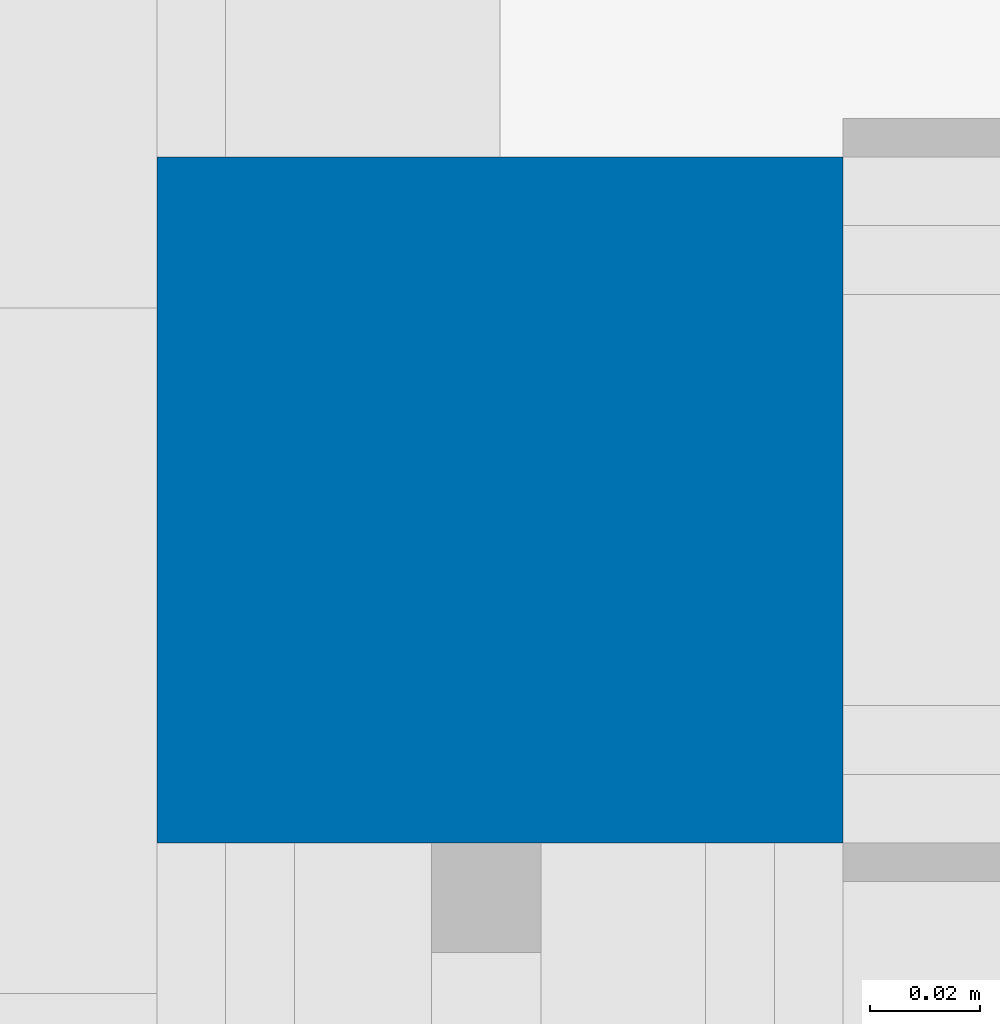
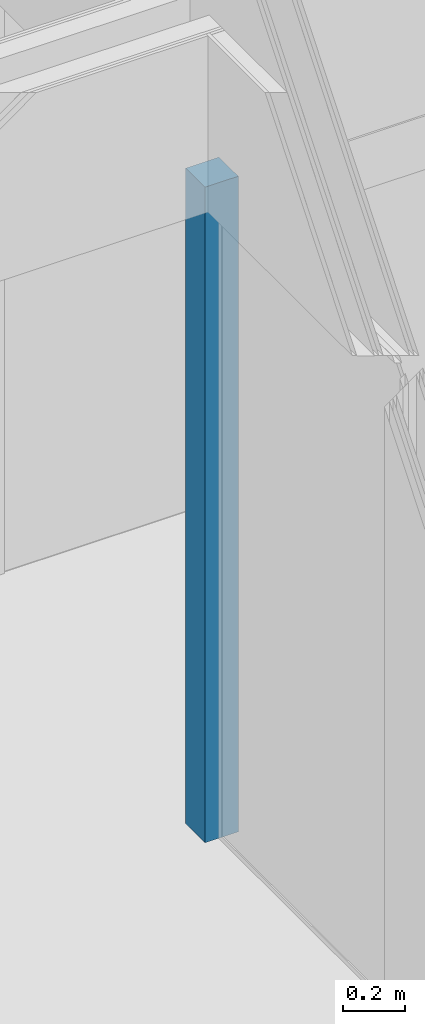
# One storey, part 3 of 165: 1 column.
"""IFC2X3 building model written with IfcOpenShell, lengths in millimetres."""

from ifc_helpers import new_model, entity, si_unit, converted_unit, derived_unit, money_unit, direction, frame, origin_with_axes, place, context, subcontext, project, spatial, faceted_brep, material, type_object, element, save


model = new_model("IFC2X3")

# Units and contexts
model_context = context("Model", 3, precision=0.01, world=origin_with_axes(), true_north=direction((0.0, 1.0)))
body_context = subcontext(model_context, "Body", "Model", "MODEL_VIEW")
ifc_project = project(units=[si_unit("LENGTHUNIT", "METRE", prefix="MILLI"), si_unit("AREAUNIT", "SQUARE_METRE"), si_unit("VOLUMEUNIT", "CUBIC_METRE"), converted_unit("PLANEANGLEUNIT", "DEGREE", entity("IfcPlaneAngleMeasure", 0.0174532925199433), si_unit("PLANEANGLEUNIT", "RADIAN"), dimensions=[0, 0, 0, 0, 0, 0, 0]), money_unit("EUR"), converted_unit("TIMEUNIT", "Year", entity("IfcTimeMeasure", 31556926.0), si_unit("TIMEUNIT", "SECOND"), dimensions=[0, 0, 1, 0, 0, 0, 0]), si_unit("MASSUNIT", "GRAM", prefix="KILO"), si_unit("THERMODYNAMICTEMPERATUREUNIT", "DEGREE_CELSIUS"), si_unit("LUMINOUSINTENSITYUNIT", "LUMEN"), si_unit("ENERGYUNIT", "JOULE", prefix="MEGA"), derived_unit("THERMALCONDUCTANCEUNIT", [(si_unit("POWERUNIT", "WATT"), 1), (si_unit("LENGTHUNIT", "METRE"), -1), (si_unit("THERMODYNAMICTEMPERATUREUNIT", "KELVIN"), -1)]), derived_unit("SPECIFICHEATCAPACITYUNIT", [(si_unit("ENERGYUNIT", "JOULE"), 1), (si_unit("MASSUNIT", "GRAM", prefix="KILO"), -1), (si_unit("THERMODYNAMICTEMPERATUREUNIT", "KELVIN"), -1)]), derived_unit("MASSDENSITYUNIT", [(si_unit("MASSUNIT", "GRAM", prefix="KILO"), 1), (si_unit("VOLUMEUNIT", "CUBIC_METRE"), -1)])], contexts=[model_context])

# Site, building, storey
site_placement = place(None, origin_with_axes())
site = spatial("IfcSite", under=ifc_project, at=site_placement, Name="Site", CompositionType="ELEMENT")
building_placement = place(site_placement, origin_with_axes())
building = spatial("IfcBuilding", under=site, at=building_placement, Name="Naam gebouw", CompositionType="ELEMENT")
storey_placement = place(building_placement, origin_with_axes())
storey = spatial("IfcBuildingStorey", under=building, at=storey_placement, Name="Begane grond", CompositionType="ELEMENT", Elevation=0.0)

# Column
ifc_material = material(Name="Hout C")
column_type = type_object("IfcColumnType", Name="Hout C 125 x 125", PredefinedType="COLUMN")
column_placement = place(storey_placement, frame((26448.50000000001, 10810.00011055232, 0.0), z_axis=(0.0, 0.0, 1.0), x_axis=(1.0, 0.0, 0.0)))
element("IfcColumn", 1, at=column_placement, inside=storey, type_object=column_type, material=ifc_material, Name="28_Kolom-x", ObjectType="COLUMN", context=body_context, shape_type="Brep", body=[
    faceted_brep([(-62.5, -62.5, 2600.0), (-62.5, -62.5, 0.0), (62.5, -62.5, 0.0), (62.5, -62.5, 2600.0), (-62.5, 62.5, 2600.0), (-62.5, 62.5, 0.0), (62.5, 62.5, 0.0), (62.5, 62.5, 2600.0)], [[[0, 1, 2, 3]], [[4, 5, 1, 0]], [[2, 1, 5, 6]], [[3, 2, 6, 7]], [[4, 0, 3, 7]], [[7, 6, 5, 4]]]),
])

save(model, "model.ifc")
